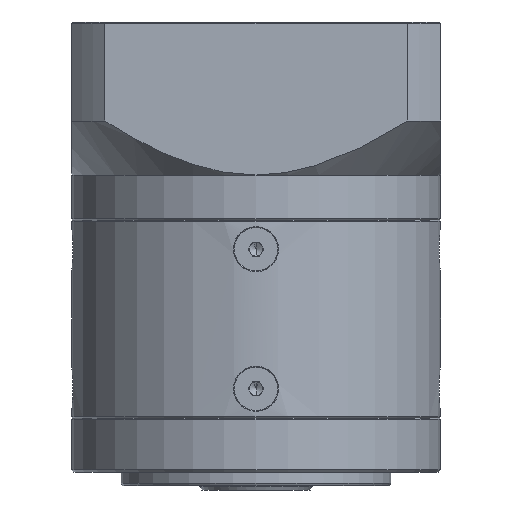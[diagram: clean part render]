
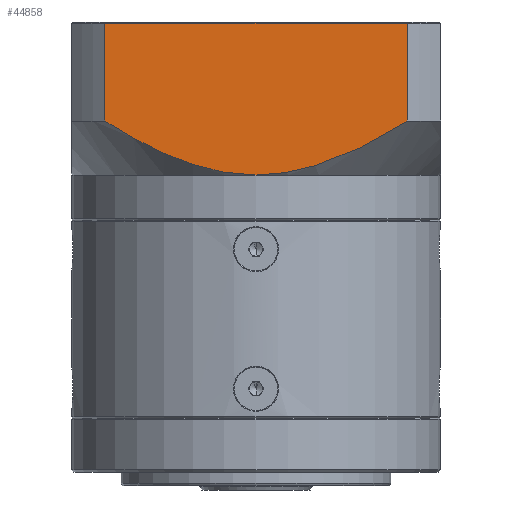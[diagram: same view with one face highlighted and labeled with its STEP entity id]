
A CAD part, front view. The second image highlights one B-rep face of the part: STEP entity #44858.
In plain terms, the highlighted planar face has unit normal (0, -1, 0).
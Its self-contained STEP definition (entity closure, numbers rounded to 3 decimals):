
#145 = CARTESIAN_POINT ( 'NONE',  ( -71.916, -4.566, 17.88 ) ) ;
#2446 = ORIENTED_EDGE ( 'NONE', *, *, #85671, .F. ) ;
#4435 = DIRECTION ( 'NONE',  ( 0., 0., 1. ) ) ;
#5153 = EDGE_CURVE ( 'NONE', #15227, #81017, #16718, .T. ) ;
#8460 = CARTESIAN_POINT ( 'NONE',  ( -109.874, -4.566, 21.326 ) ) ;
#9138 = LINE ( 'NONE', #22956, #80846 ) ;
#9601 = CARTESIAN_POINT ( 'NONE',  ( -74.819, -4.566, 16.996 ) ) ;
#15227 = VERTEX_POINT ( 'NONE', #104706 ) ;
#16618 = CARTESIAN_POINT ( 'NONE',  ( -120.327, -4.566, 49.054 ) ) ;
#16718 = B_SPLINE_CURVE_WITH_KNOTS ( 'NONE', 3,
 ( #73177, #92305, #26941, #36410, #101661, #45857, #110993, #55263, #120370, #64631, #8460, #73973, #17919, #83300 ),
 .UNSPECIFIED., .F., .F.,
 ( 4, 2, 2, 2, 2, 2, 4 ),
 ( 0., 0.009, 0.013, 0.016, 0.018, 0.027, 0.036 ),
 .UNSPECIFIED. ) ;
#17919 = CARTESIAN_POINT ( 'NONE',  ( -117.775, -4.566, 25.686 ) ) ;
#19042 = CARTESIAN_POINT ( 'NONE',  ( -77.018, -4.566, 16.435 ) ) ;
#19892 = CARTESIAN_POINT ( 'NONE',  ( -53.156, -4.566, 27.304 ) ) ;
#20244 = LINE ( 'NONE', #60015, #116577 ) ;
#22298 = CARTESIAN_POINT ( 'NONE',  ( -127.742, -4.566, 49.304 ) ) ;
#22956 = CARTESIAN_POINT ( 'NONE',  ( -120.327, -4.566, 15.304 ) ) ;
#26941 = CARTESIAN_POINT ( 'NONE',  ( -92.771, -4.566, 15.645 ) ) ;
#28466 = CARTESIAN_POINT ( 'NONE',  ( -83.697, -4.566, 15.304 ) ) ;
#29436 = ORIENTED_EDGE ( 'NONE', *, *, #40433, .F. ) ;
#31643 = EDGE_CURVE ( 'NONE', #81017, #66705, #9138, .T. ) ;
#31747 = DIRECTION ( 'NONE',  ( 0., 0., 1. ) ) ;
#32927 = CARTESIAN_POINT ( 'NONE',  ( -120.327, -4.566, 27.304 ) ) ;
#35919 = VERTEX_POINT ( 'NONE', #63416 ) ;
#36410 = CARTESIAN_POINT ( 'NONE',  ( -97.173, -4.566, 16.585 ) ) ;
#40433 = EDGE_CURVE ( 'NONE', #35919, #113454, #20244, .T. ) ;
#41025 = ORIENTED_EDGE ( 'NONE', *, *, #92902, .F. ) ;
#44858 = ADVANCED_FACE ( 'NONE', ( #82366 ), #106017, .F. ) ;
#45857 = CARTESIAN_POINT ( 'NONE',  ( -100.795, -4.566, 17.64 ) ) ;
#46674 = ORIENTED_EDGE ( 'NONE', *, *, #31643, .F. ) ;
#46998 = CARTESIAN_POINT ( 'NONE',  ( -63.594, -4.566, 21.333 ) ) ;
#55263 = CARTESIAN_POINT ( 'NONE',  ( -102.944, -4.566, 18.384 ) ) ;
#56365 = CARTESIAN_POINT ( 'NONE',  ( -70.496, -4.566, 18.386 ) ) ;
#60015 = CARTESIAN_POINT ( 'NONE',  ( -53.156, -4.566, 49.304 ) ) ;
#63416 = CARTESIAN_POINT ( 'NONE',  ( -53.156, -4.566, 49.054 ) ) ;
#64631 = CARTESIAN_POINT ( 'NONE',  ( -107.16, -4.566, 20.034 ) ) ;
#65746 = CARTESIAN_POINT ( 'NONE',  ( -74.088, -4.566, 17.206 ) ) ;
#66705 = VERTEX_POINT ( 'NONE', #16618 ) ;
#68686 = ORIENTED_EDGE ( 'NONE', *, *, #5153, .F. ) ;
#70709 = CARTESIAN_POINT ( 'NONE',  ( -127.742, -4.566, 49.054 ) ) ;
#73177 = CARTESIAN_POINT ( 'NONE',  ( -86.742, -4.566, 15.304 ) ) ;
#73973 = CARTESIAN_POINT ( 'NONE',  ( -115.182, -4.566, 24.152 ) ) ;
#75100 = CARTESIAN_POINT ( 'NONE',  ( -76.283, -4.566, 16.61 ) ) ;
#78731 = DIRECTION ( 'NONE',  ( 0., 0., -1. ) ) ;
#80846 = VECTOR ( 'NONE', #4435, 1000. ) ;
#81017 = VERTEX_POINT ( 'NONE', #32927 ) ;
#82366 = FACE_OUTER_BOUND ( 'NONE', #101936, .T. ) ;
#83300 = CARTESIAN_POINT ( 'NONE',  ( -120.327, -4.566, 27.304 ) ) ;
#84420 = CARTESIAN_POINT ( 'NONE',  ( -80.704, -4.566, 15.645 ) ) ;
#85671 = EDGE_CURVE ( 'NONE', #66705, #35919, #104140, .T. ) ;
#87673 = DIRECTION ( 'NONE',  ( 0., 1., 0. ) ) ;
#92305 = CARTESIAN_POINT ( 'NONE',  ( -89.786, -4.566, 15.304 ) ) ;
#92902 = EDGE_CURVE ( 'NONE', #113454, #15227, #105957, .T. ) ;
#93840 = CARTESIAN_POINT ( 'NONE',  ( -86.742, -4.566, 15.304 ) ) ;
#101176 = VECTOR ( 'NONE', #117092, 1000. ) ;
#101661 = CARTESIAN_POINT ( 'NONE',  ( -98.629, -4.566, 16.97 ) ) ;
#101936 = EDGE_LOOP ( 'NONE', ( #2446, #46674, #68686, #41025, #29436 ) ) ;
#101960 = CARTESIAN_POINT ( 'NONE',  ( -53.156, -4.566, 27.304 ) ) ;
#102785 = CARTESIAN_POINT ( 'NONE',  ( -58.296, -4.566, 24.155 ) ) ;
#104140 = LINE ( 'NONE', #70709, #101176 ) ;
#104706 = CARTESIAN_POINT ( 'NONE',  ( -86.742, -4.566, 15.304 ) ) ;
#105957 = B_SPLINE_CURVE_WITH_KNOTS ( 'NONE', 3,
 ( #101960, #121088, #102785, #46998, #112065, #56365, #145, #65746, #9601, #75100, #19042, #84420, #28466, #93840 ),
 .UNSPECIFIED., .F., .F.,
 ( 4, 2, 2, 2, 2, 2, 4 ),
 ( 0., 0.009, 0.018, 0.022, 0.025, 0.027, 0.036 ),
 .UNSPECIFIED. ) ;
#106017 = PLANE ( 'NONE',  #120817 ) ;
#110993 = CARTESIAN_POINT ( 'NONE',  ( -101.516, -4.566, 17.879 ) ) ;
#112065 = CARTESIAN_POINT ( 'NONE',  ( -66.302, -4.566, 20.044 ) ) ;
#113454 = VERTEX_POINT ( 'NONE', #19892 ) ;
#116577 = VECTOR ( 'NONE', #78731, 1000. ) ;
#117092 = DIRECTION ( 'NONE',  ( 1., 0., 0. ) ) ;
#120370 = CARTESIAN_POINT ( 'NONE',  ( -103.651, -4.566, 18.649 ) ) ;
#120817 = AXIS2_PLACEMENT_3D ( 'NONE', #22298, #87673, #31747 ) ;
#121088 = CARTESIAN_POINT ( 'NONE',  ( -55.706, -4.566, 25.688 ) ) ;
